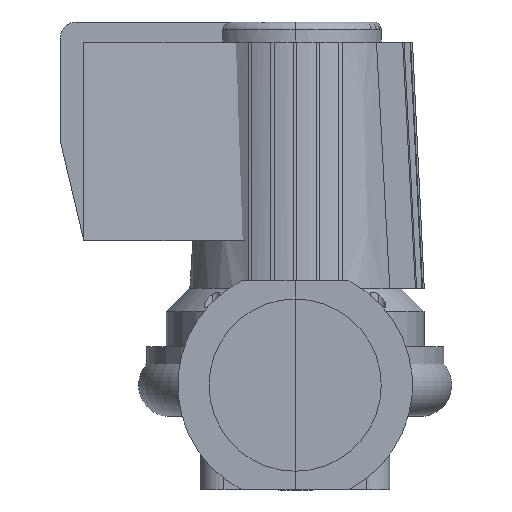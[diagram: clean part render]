
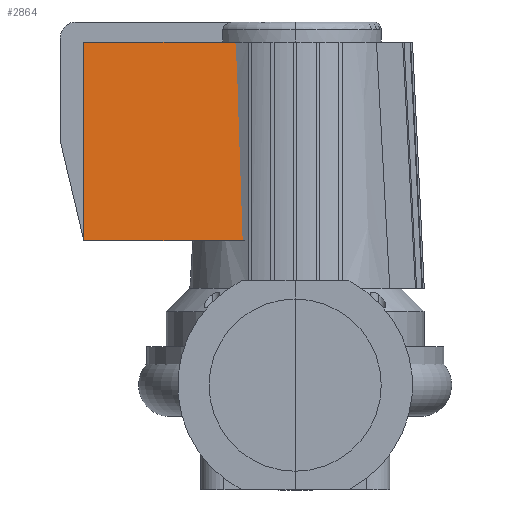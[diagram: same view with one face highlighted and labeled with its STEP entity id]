
A CAD part, left-side view. The second image highlights one B-rep face of the part: STEP entity #2864.
In plain terms, the highlighted planar face has unit normal (-0.997, 0, 0.079).
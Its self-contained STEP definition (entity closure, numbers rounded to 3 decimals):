
#249=PLANE('',#3119);
#406=FACE_OUTER_BOUND('',#590,.T.);
#590=EDGE_LOOP('',(#2420,#2421,#2422,#2423));
#744=LINE('',#5976,#953);
#752=LINE('',#6060,#961);
#761=LINE('',#6077,#970);
#762=LINE('',#6078,#971);
#953=VECTOR('',#3636,304.8);
#961=VECTOR('',#3652,304.8);
#970=VECTOR('',#3665,304.8);
#971=VECTOR('',#3666,304.8);
#1338=VERTEX_POINT('',#5974);
#1339=VERTEX_POINT('',#5975);
#1349=VERTEX_POINT('',#6058);
#1355=VERTEX_POINT('',#6076);
#1704=EDGE_CURVE('',#1338,#1339,#744,.T.);
#1717=EDGE_CURVE('',#1339,#1349,#752,.T.);
#1726=EDGE_CURVE('',#1355,#1349,#761,.T.);
#1727=EDGE_CURVE('',#1338,#1355,#762,.T.);
#2420=ORIENTED_EDGE('',*,*,#1726,.F.);
#2421=ORIENTED_EDGE('',*,*,#1727,.F.);
#2422=ORIENTED_EDGE('',*,*,#1704,.T.);
#2423=ORIENTED_EDGE('',*,*,#1717,.T.);
#2864=ADVANCED_FACE('',(#406),#249,.T.);
#3119=AXIS2_PLACEMENT_3D('',#6075,#3663,#3664);
#3636=DIRECTION('',(0.079,0.,0.997));
#3652=DIRECTION('',(0.,1.,0.));
#3663=DIRECTION('center_axis',(-0.997,0.,0.079));
#3664=DIRECTION('ref_axis',(0.,1.,0.));
#3665=DIRECTION('',(0.079,0.,0.997));
#3666=DIRECTION('',(0.,1.,0.));
#5974=CARTESIAN_POINT('',(39812.75,-35951.239,92.228));
#5975=CARTESIAN_POINT('',(39822.75,-35951.239,219.2));
#5976=CARTESIAN_POINT('',(39812.75,-35951.239,92.228));
#6058=CARTESIAN_POINT('',(39822.75,-35846.239,219.2));
#6060=CARTESIAN_POINT('',(39822.75,-35951.239,219.2));
#6075=CARTESIAN_POINT('Origin',(39822.75,-35981.239,219.2));
#6076=CARTESIAN_POINT('',(39812.75,-35846.239,92.228));
#6077=CARTESIAN_POINT('',(39812.75,-35846.239,92.228));
#6078=CARTESIAN_POINT('',(39812.75,-35951.239,92.228));
